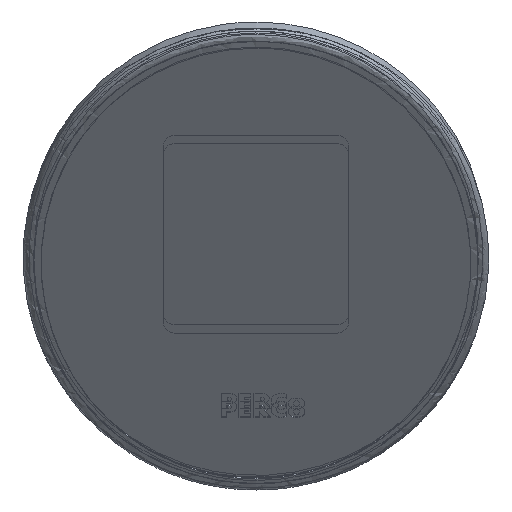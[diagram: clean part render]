
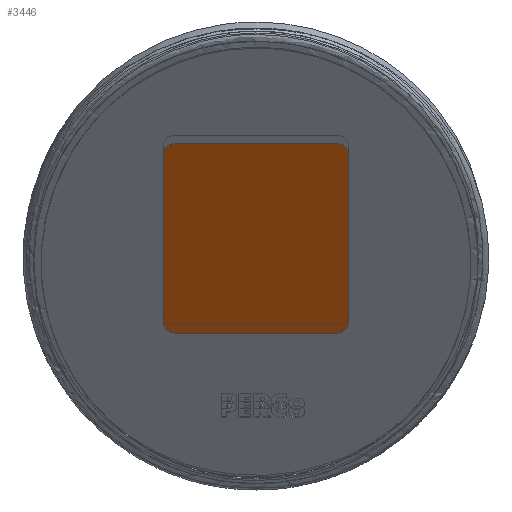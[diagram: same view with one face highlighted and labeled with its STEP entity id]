
A CAD part, top view. The second image highlights one B-rep face of the part: STEP entity #3446.
In plain terms, the highlighted planar face has unit normal (0, -0.643, 0.766) as drawn and (0, 0, 1) by its records, which use the part's own axes.
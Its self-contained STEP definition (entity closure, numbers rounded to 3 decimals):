
#361=LINE('',#6266,#687);
#362=LINE('',#6271,#688);
#363=LINE('',#6275,#689);
#364=LINE('',#6279,#690);
#687=VECTOR('',#5132,1000.);
#688=VECTOR('',#5135,1000.);
#689=VECTOR('',#5138,1000.);
#690=VECTOR('',#5141,1000.);
#1018=PLANE('',#4725);
#1157=CIRCLE('',#4720,3.);
#1158=CIRCLE('',#4721,3.);
#1159=CIRCLE('',#4722,3.);
#1160=CIRCLE('',#4723,3.);
#1403=ORIENTED_EDGE('',*,*,#2200,.F.);
#1404=ORIENTED_EDGE('',*,*,#2199,.F.);
#1405=ORIENTED_EDGE('',*,*,#2206,.F.);
#1406=ORIENTED_EDGE('',*,*,#2205,.F.);
#1407=ORIENTED_EDGE('',*,*,#2204,.F.);
#1408=ORIENTED_EDGE('',*,*,#2203,.F.);
#1409=ORIENTED_EDGE('',*,*,#2202,.F.);
#1410=ORIENTED_EDGE('',*,*,#2201,.F.);
#2199=EDGE_CURVE('',#2621,#2622,#361,.T.);
#2200=EDGE_CURVE('',#2622,#2623,#1157,.F.);
#2201=EDGE_CURVE('',#2623,#2624,#362,.T.);
#2202=EDGE_CURVE('',#2624,#2625,#1158,.F.);
#2203=EDGE_CURVE('',#2625,#2626,#363,.T.);
#2204=EDGE_CURVE('',#2626,#2627,#1159,.F.);
#2205=EDGE_CURVE('',#2627,#2628,#364,.T.);
#2206=EDGE_CURVE('',#2628,#2621,#1160,.F.);
#2621=VERTEX_POINT('',#6267);
#2622=VERTEX_POINT('',#6268);
#2623=VERTEX_POINT('',#6270);
#2624=VERTEX_POINT('',#6272);
#2625=VERTEX_POINT('',#6274);
#2626=VERTEX_POINT('',#6276);
#2627=VERTEX_POINT('',#6278);
#2628=VERTEX_POINT('',#6280);
#2939=EDGE_LOOP('',(#1403,#1404,#1405,#1406,#1407,#1408,#1409,#1410));
#3193=FACE_BOUND('',#2939,.T.);
#3446=ADVANCED_FACE('',(#3193),#1018,.T.);
#4720=AXIS2_PLACEMENT_3D('',#6269,#5133,#5134);
#4721=AXIS2_PLACEMENT_3D('',#6273,#5136,#5137);
#4722=AXIS2_PLACEMENT_3D('',#6277,#5139,#5140);
#4723=AXIS2_PLACEMENT_3D('',#6281,#5142,#5143);
#4725=AXIS2_PLACEMENT_3D('',#6342,#5146,#5147);
#5132=DIRECTION('',(1.,0.,0.));
#5133=DIRECTION('',(0.,0.,1.));
#5134=DIRECTION('',(1.,0.,0.));
#5135=DIRECTION('',(0.,-1.,0.));
#5136=DIRECTION('',(0.,0.,1.));
#5137=DIRECTION('',(1.,0.,0.));
#5138=DIRECTION('',(-1.,0.,0.));
#5139=DIRECTION('',(0.,0.,1.));
#5140=DIRECTION('',(1.,0.,0.));
#5141=DIRECTION('',(0.,1.,0.));
#5142=DIRECTION('',(0.,0.,1.));
#5143=DIRECTION('',(1.,0.,0.));
#5146=DIRECTION('',(0.,0.,1.));
#5147=DIRECTION('',(1.,0.,0.));
#6266=CARTESIAN_POINT('',(0.,36.,3.));
#6267=CARTESIAN_POINT('',(-18.5,36.,3.));
#6268=CARTESIAN_POINT('',(18.5,36.,3.));
#6269=CARTESIAN_POINT('',(18.5,33.,3.));
#6270=CARTESIAN_POINT('',(21.5,33.,3.));
#6271=CARTESIAN_POINT('',(21.5,0.,3.));
#6272=CARTESIAN_POINT('',(21.5,-18.4,3.));
#6273=CARTESIAN_POINT('',(18.5,-18.4,3.));
#6274=CARTESIAN_POINT('',(18.5,-21.4,3.));
#6275=CARTESIAN_POINT('',(0.,-21.4,3.));
#6276=CARTESIAN_POINT('',(-18.5,-21.4,3.));
#6277=CARTESIAN_POINT('',(-18.5,-18.4,3.));
#6278=CARTESIAN_POINT('',(-21.5,-18.4,3.));
#6279=CARTESIAN_POINT('',(-21.5,0.,3.));
#6280=CARTESIAN_POINT('',(-21.5,33.,3.));
#6281=CARTESIAN_POINT('',(-18.5,33.,3.));
#6342=CARTESIAN_POINT('',(0.,0.,3.));
